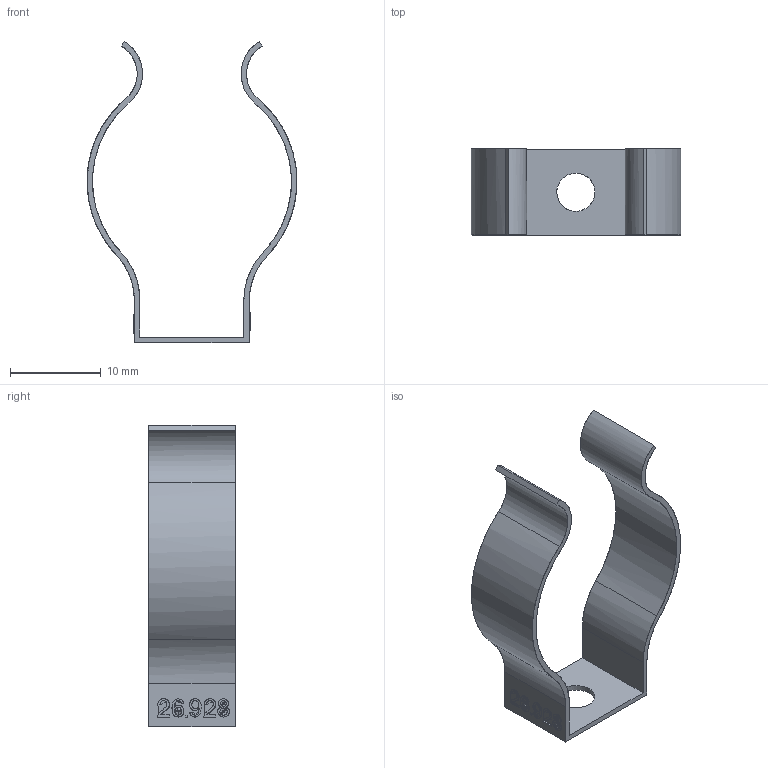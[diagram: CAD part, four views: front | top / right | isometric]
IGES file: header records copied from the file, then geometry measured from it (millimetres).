
Global section: file name: C:\Programme\CoreTechnologie\in\00Y-K03-03.igs; native system: CT CoreTechnologie 3D Evolution; preprocessor: 2005; author: assmuth; date: 050713.085622; units: millimetre
Bounding box: 23.19 x 9.5 x 33.26 mm (x, y, z)
Surface area: 1713.4 mm2 (no closed solid volume)
Topology: 0 solids, 0 shells, 138 faces, 632 edges, 612 vertices
Faces by surface type: bspline 138
